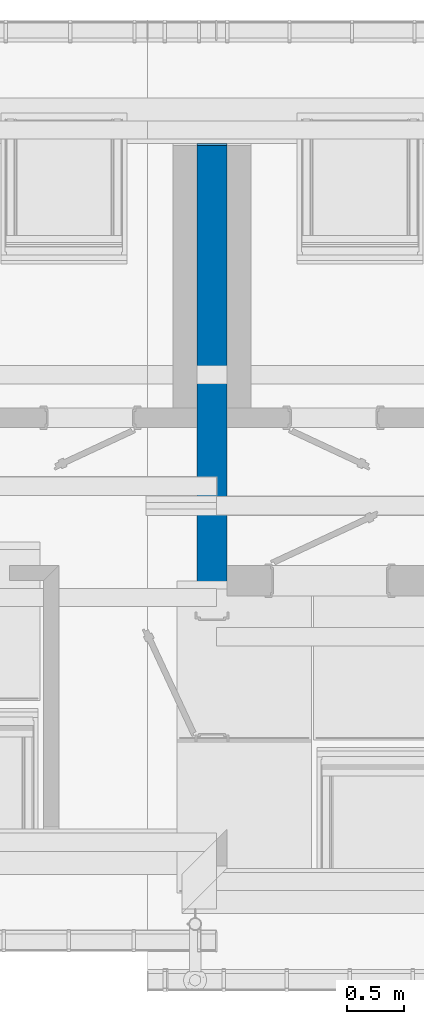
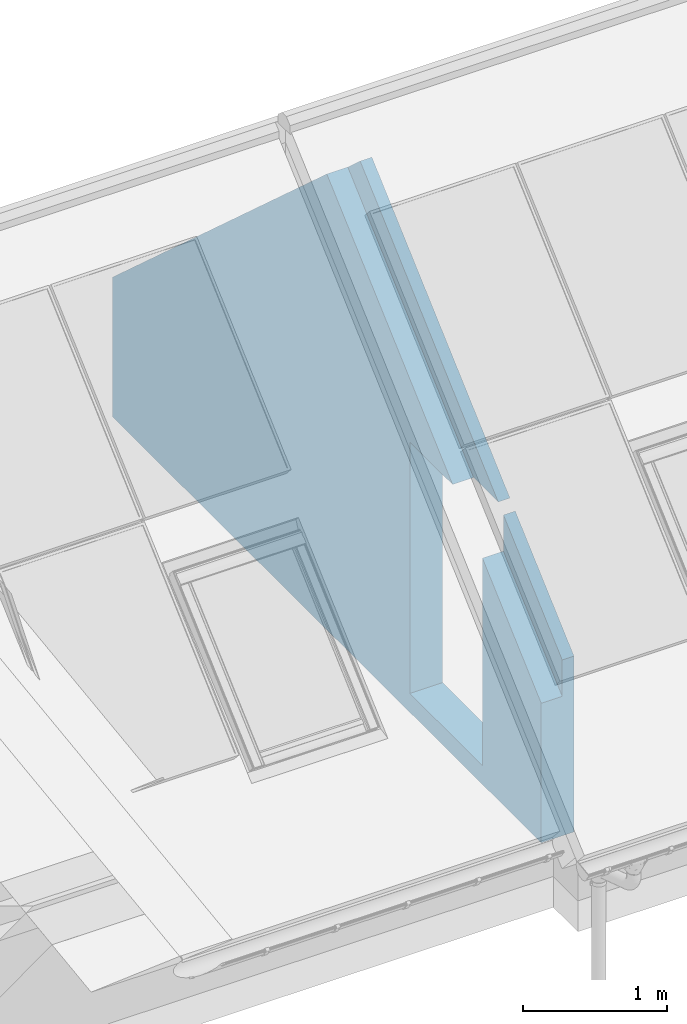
# One storey, part 11 of 43: 1 wall, 1 opening.
"""IFC2X3 building model written with IfcOpenShell, lengths in millimetres."""

from ifc_helpers import new_model, si_unit, frame, origin_with_axes, place, context, project, spatial, faceted_brep, material, layer, layer_set, layer_usage, element, save


model = new_model("IFC2X3")

# Units and contexts
model_context = context("Model", 3, world=origin_with_axes())
ifc_project = project(units=[si_unit("LENGTHUNIT", "METRE", prefix="MILLI")], contexts=[model_context])

# Site, building, storey
site_placement = place(None, origin_with_axes())
site = spatial("IfcSite", under=ifc_project, at=site_placement, Name="Site", CompositionType="ELEMENT")
building_placement = place(site_placement, origin_with_axes())
building = spatial("IfcBuilding", under=site, at=building_placement, Name="?", CompositionType="ELEMENT")
storey_placement = place(building_placement, frame((0.0, 0.0, 5938.0), z_axis=(0.0, 0.0, 1.0), x_axis=(1.0, 0.0, 0.0)))
storey = spatial("IfcBuildingStorey", under=building, at=storey_placement, Name="Dachgeschoß", CompositionType="ELEMENT", Elevation=5938.0)

# Wall, opening
ifc_material = material(Name="Material_IW")
ifc_layer = layer(ifc_material, 264.0, ventilated=False)
ifc_layer_set = layer_set([ifc_layer], Name="MaterialLayerSet_IW")
ifc_layer_usage = layer_usage(ifc_layer_set, "AXIS2", "NEGATIVE", 132.0)
wall_placement = place(storey_placement, frame((9763.0, -6361.0, 0.0), z_axis=(0.0, 0.0, 1.0), x_axis=(0.0, 1.0, 0.0)))
wall = element("IfcWall", 1, at=wall_placement, inside=storey, material=ifc_layer_usage, Name="IW-37", context=model_context, shape_type="Brep", body=[
    faceted_brep([(5966.0, -132.0, 0.0), (5966.0, -132.0, 1185.21075677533), (2812.00079166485, -132.0, 4025.08453012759), (0.0, -132.0, 1493.14795705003), (0.0, -132.0, 0.0), (5966.0, 132.0, 0.0), (5966.0, 132.0, 1185.2104459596), (5966.0, -132.0, 1185.21075677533), (5966.0, -132.0, 0.0), (0.0, 132.0, 0.0), (0.0, 132.0, 1185.20941946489), (2983.00031753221, 132.0, 3871.11554757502), (5966.0, 132.0, 1185.2104459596), (5966.0, 132.0, 0.0), (0.0, -132.0, 0.0), (0.0, -132.0, 1493.14795705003), (0.0, -37.0, 1493.14795705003), (0.0, -37.0, 1185.2091162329), (0.0, 132.0, 1185.20941946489), (0.0, 132.0, 0.0), (0.0, -132.0, 0.0), (0.0, 132.0, 0.0), (5966.0, 132.0, 0.0), (5966.0, -132.0, 0.0), (0.0, -37.0, 1493.14795705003), (-1.46457586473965e-13, -132.0, 1493.14795705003), (2812.00079166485, -132.0, 4025.08453012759), (2812.00072955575, -37.0, 4025.08447420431), (2812.00079166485, -132.0, 4025.08453012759), (5966.0, -132.0, 1185.21075677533), (5966.0, 132.0, 1185.2104459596), (2983.00031753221, 132.0, 3871.11554757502), (2983.00059640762, -37.0, 3871.11549544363), (2812.00072955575, -37.0, 4025.08447420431), (2983.00031753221, 132.0, 3871.11554757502), (0.0, 132.0, 1185.20941946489), (0.0, -37.0, 1185.2091162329), (2811.99982450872, -37.0, 3717.14567571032), (2983.00059640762, -37.0, 3871.11549544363), (0.0, -37.0, 1185.2091162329), (4.93038065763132e-32, -37.0, 1493.14795705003), (2812.00072955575, -37.0, 4025.08447420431), (2983.00059640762, -37.0, 3871.11549544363), (2811.99982450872, -37.0, 3717.14567571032)], [[[0, 1, 2, 3, 4]], [[5, 6, 7, 8]], [[9, 10, 11, 12, 13]], [[14, 15, 16, 17, 18, 19]], [[20, 21, 22, 23]], [[24, 25, 26, 27]], [[28, 29, 30, 31, 32, 33]], [[34, 35, 36, 37, 38]], [[39, 40, 41, 42, 43]]]),
])
opening_placement = place(wall_placement, frame((818.0, 0.0, 160.0), z_axis=(0.0, 0.0, 1.0), x_axis=(1.0, 0.0, 0.0)))
element("IfcOpeningElement", 2, at=opening_placement, cuts=wall, Name="IW-37|IT15", context=model_context, shape_type="Brep", body=[
    faceted_brep([(0.0, 142.0, 0.0), (0.0, 142.0, 2135.0), (1010.0, 142.0, 2135.0), (1010.0, 142.0, 0.0), (0.0, -142.0, 0.0), (0.0, -142.0, 2135.0), (0.0, 142.0, 2135.0), (0.0, 142.0, 0.0), (1010.0, -142.0, 0.0), (0.0, -142.0, 0.0), (0.0, 142.0, 0.0), (1010.0, 142.0, 0.0), (1010.0, -142.0, 2135.0), (1010.0, -142.0, 0.0), (1010.0, 142.0, 0.0), (1010.0, 142.0, 2135.0), (0.0, -142.0, 2135.0), (1010.0, -142.0, 2135.0), (1010.0, 142.0, 2135.0), (0.0, 142.0, 2135.0), (0.0, -142.0, 0.0), (1010.0, -142.0, 0.0), (1010.0, -142.0, 2135.0), (0.0, -142.0, 2135.0)], [[[0, 1, 2, 3]], [[4, 5, 6, 7]], [[8, 9, 10, 11]], [[12, 13, 14, 15]], [[16, 17, 18, 19]], [[20, 21, 22, 23]]]),
])

save(model, "model.ifc")
